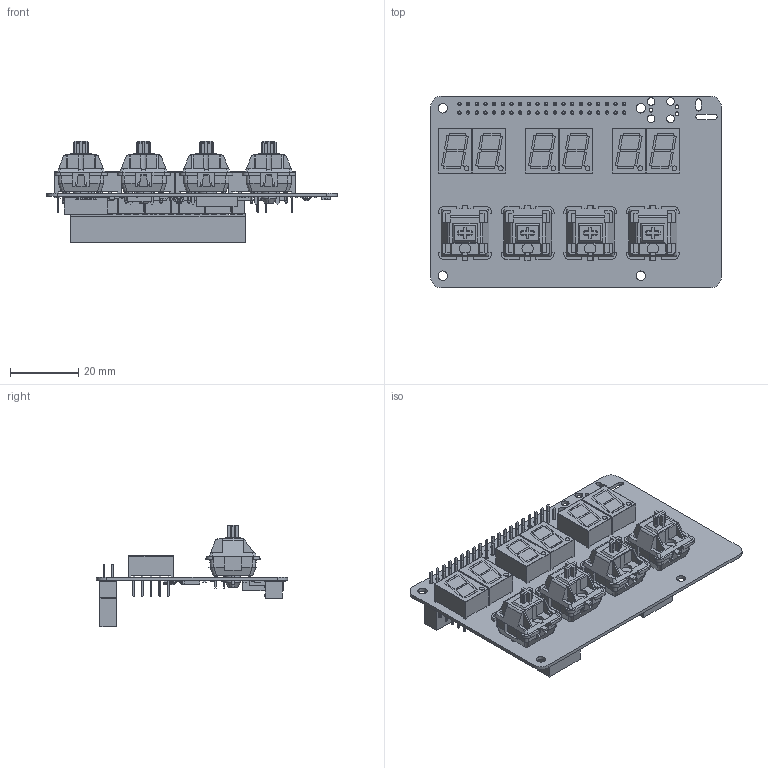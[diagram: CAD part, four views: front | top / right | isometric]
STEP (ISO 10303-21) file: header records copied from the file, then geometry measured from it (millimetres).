
FILE_DESCRIPTION(('Open CASCADE Model'),'2;1');
FILE_NAME('Open CASCADE Shape Model','2024-12-08T22:34:59',('Author'),( 'Open CASCADE'),'Open CASCADE STEP processor 7.5','Open CASCADE 7.5' ,'Unknown');
FILE_SCHEMA(('AUTOMOTIVE_DESIGN { 1 0 10303 214 1 1 1 1 }'));
Length unit declared in the file: millimetre
Products named in the file (140): PCB; Board; Open CASCADE STEP translator 7.5 2.1.1; R454; R0402; R453; R452; R451; R450; R449; Q405; User Library-SOT23-3; Q404; Q403; Q402; Q401; Q400; U301; 6095042688; Extruded; R307; R306; C308; User Library-cap_0402; BUZ300; 6095035648; J500; ESW-120-23-T-D; ESW-120-23-T-D_socket; ESW-120-23-T-D_pins; ESW-120-23-T-D2_PINS; ESW-120-23-T-D_bsocket; X300; 6095041728; U405; 6095039488; U402; U300; 7413715616; U403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
Assembly tree (437 placements, depth 4):
  PCB
    Board
      Open CASCADE STEP translator 7.5 2.1.1
    R454
      R0402
      R0402
      R0402
      R0402
    R453
      R0402
      R0402
      R0402
      R0402
    R452
      R0402
      R0402
      R0402
      R0402
    R451
      R0402
      R0402
      R0402
      R0402
    R450
      R0402
      R0402
      R0402
      R0402
    R449
      R0402
      R0402
      R0402
      R0402
    Q405
      User Library-SOT23-3
    Q404
      User Library-SOT23-3
    Q403
      User Library-SOT23-3
    Q402
      User Library-SOT23-3
    Q401
      User Library-SOT23-3
    Q400
      User Library-SOT23-3
    U301
      6095042688
        Extruded
    R307
      R0402
      R0402
      R0402
      R0402
    R306
      R0402
      R0402
      R0402
      R0402
    C308
      User Library-cap_0402
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Bounding box: 85 x 56 x 29.85 mm (x, y, z)
Volume: 19486.5 mm3; surface area: 29200.3 mm2
Topology: 400 solids, 400 shells, 8223 faces, 20597 edges, 13293 vertices
Faces by surface type: plane 6961, cylinder 1039, sphere 164, cone 32, bspline 18, torus 9
Full cylindrical faces by diameter (mm): 0.6 x2, 0.7 x60, 1 x40, 1.1 x3, 1.55 x8, 1.752 x8, 2.3 x4, 2.75 x4, 4.09 x4
Entity records: 94247 total; most frequent: CARTESIAN_POINT 16900, ORIENTED_EDGE 15140, DIRECTION 14773, EDGE_CURVE 7570, LINE 6783, VECTOR 6783, VERTEX_POINT 4927, AXIS2_PLACEMENT_3D 3995
